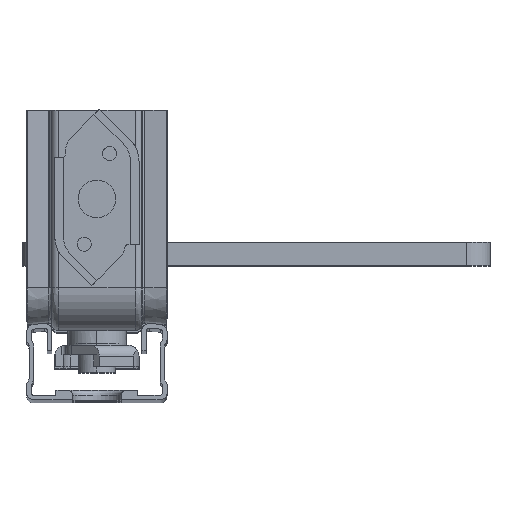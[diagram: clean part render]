
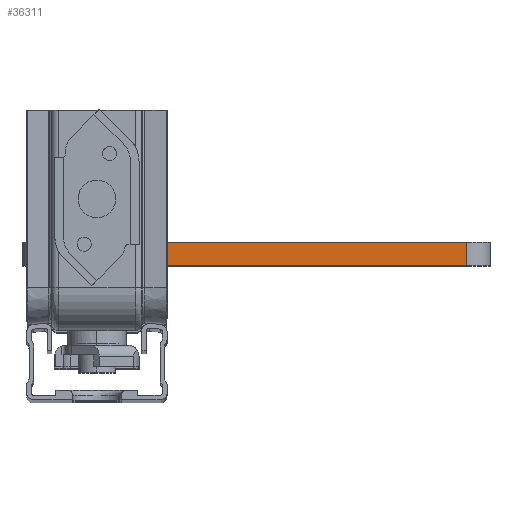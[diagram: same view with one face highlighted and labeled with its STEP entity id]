
A CAD part, top view. The second image highlights one B-rep face of the part: STEP entity #36311.
In plain terms, the highlighted planar face has unit normal (0, 0, 1).
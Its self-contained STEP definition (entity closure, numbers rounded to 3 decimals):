
#466 = AXIS2_PLACEMENT_3D ( 'NONE', #24055, #24060, #24061 ) ;
#4141 = EDGE_LOOP ( 'NONE', ( #21313, #24577, #24551, #24565 ) ) ;
#8246 = EDGE_CURVE ( 'NONE', #31379, #30509, #57078, .T. ) ;
#8263 = EDGE_CURVE ( 'NONE', #31395, #30477, #57096, .T. ) ;
#8313 = EDGE_CURVE ( 'NONE', #30509, #30477, #57134, .T. ) ;
#8358 = EDGE_CURVE ( 'NONE', #31379, #31395, #57169, .T. ) ;
#11162 = CARTESIAN_POINT ( 'NONE',  ( 94., 28.799, -52. ) ) ;
#11164 = DIRECTION ( 'NONE',  ( 0., 1., 0. ) ) ;
#11175 = DIRECTION ( 'NONE',  ( 0., 1., 0. ) ) ;
#11177 = CARTESIAN_POINT ( 'NONE',  ( 4., 28.799, -52. ) ) ;
#11235 = CARTESIAN_POINT ( 'NONE',  ( 4., 33.799, -52. ) ) ;
#11236 = DIRECTION ( 'NONE',  ( -1., 0., 0. ) ) ;
#11292 = CARTESIAN_POINT ( 'NONE',  ( 4., 28.799, -52. ) ) ;
#11293 = DIRECTION ( 'NONE',  ( -1., 0., 0. ) ) ;
#21142 = CARTESIAN_POINT ( 'NONE',  ( 4., 33.799, -52. ) ) ;
#21313 = ORIENTED_EDGE ( 'NONE', *, *, #8313, .T. ) ;
#22242 = CARTESIAN_POINT ( 'NONE',  ( 94., 33.799, -52. ) ) ;
#23943 = CARTESIAN_POINT ( 'NONE',  ( 94., 28.799, -52. ) ) ;
#23959 = CARTESIAN_POINT ( 'NONE',  ( 4., 28.799, -52. ) ) ;
#24053 = PLANE ( 'NONE',  #466 ) ;
#24055 = CARTESIAN_POINT ( 'NONE',  ( 4., 28.799, -52. ) ) ;
#24060 = DIRECTION ( 'NONE',  ( 0., 0., -1. ) ) ;
#24061 = DIRECTION ( 'NONE',  ( 1., 0., 0. ) ) ;
#24498 = FACE_OUTER_BOUND ( 'NONE', #4141, .T. ) ;
#24551 = ORIENTED_EDGE ( 'NONE', *, *, #8358, .F. ) ;
#24565 = ORIENTED_EDGE ( 'NONE', *, *, #8246, .T. ) ;
#24577 = ORIENTED_EDGE ( 'NONE', *, *, #8263, .F. ) ;
#30477 = VERTEX_POINT ( 'NONE', #21142 ) ;
#30509 = VERTEX_POINT ( 'NONE', #22242 ) ;
#31379 = VERTEX_POINT ( 'NONE', #23943 ) ;
#31395 = VERTEX_POINT ( 'NONE', #23959 ) ;
#36311 = ADVANCED_FACE ( 'NONE', ( #24498 ), #24053, .F. ) ;
#57078 = LINE ( 'NONE', #11162, #57081 ) ;
#57081 = VECTOR ( 'NONE', #11164, 1000. ) ;
#57096 = LINE ( 'NONE', #11177, #57098 ) ;
#57098 = VECTOR ( 'NONE', #11175, 1000. ) ;
#57134 = LINE ( 'NONE', #11235, #57136 ) ;
#57136 = VECTOR ( 'NONE', #11236, 1000. ) ;
#57169 = LINE ( 'NONE', #11292, #57171 ) ;
#57171 = VECTOR ( 'NONE', #11293, 1000. ) ;
